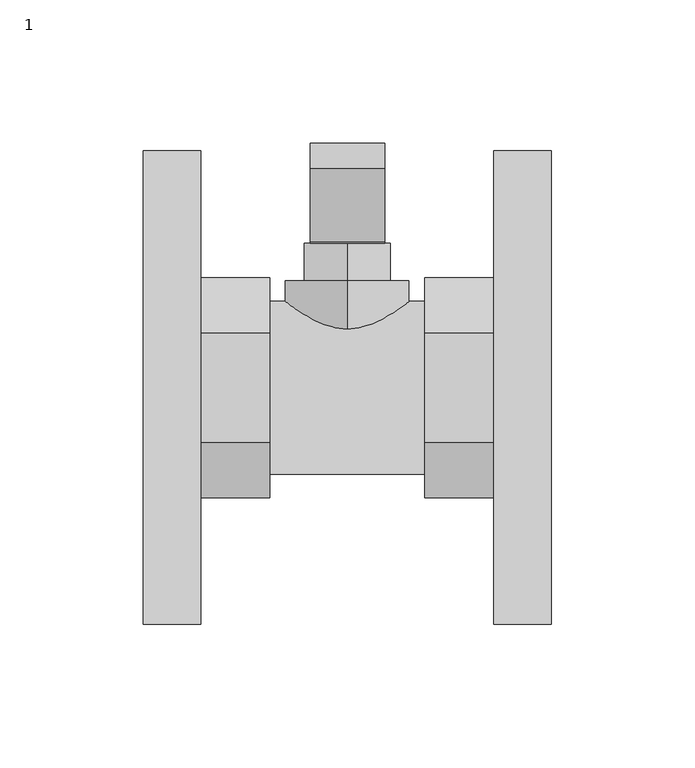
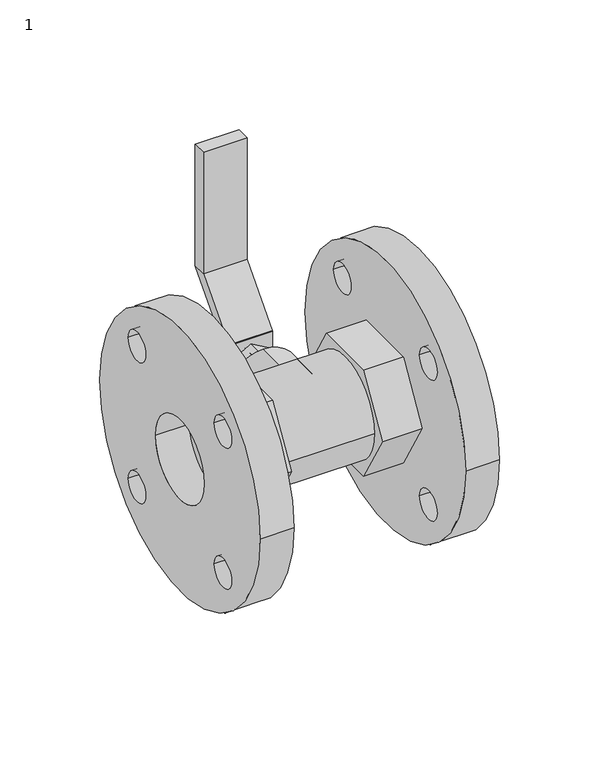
"""IFC4 building model written with IfcOpenShell, lengths in millimetres: valve geometry, LLAVE BRIDADA DN_50 : 1."""

from ifc_helpers import new_model, si_unit, point, frame, frame_2d, origin, origin_2d, place, context, project, spatial, polyline, circle_curve, trimmed, segment, composite_curve, outline, extrude, source, transform, mapped, element, save


def valve_1_e48f4d86(model_context):
    return source(origin(), model_context, "Body", "SweptSolid", [
        extrude(outline(composite_curve([segment(trimmed(circle_curve(origin_2d(), 82.5), [point((-82.5, 0.0))], [point((82.5, 0.0))], False, "CARTESIAN"), True, "CONTINUOUS"), segment(trimmed(circle_curve(origin_2d(), 82.5), [point((82.5, 0.0))], [point((-82.5, 0.0))], False, "CARTESIAN"), True, "CONTINUOUS")], self_intersect=False), holes=[composite_curve([segment(trimmed(circle_curve(frame_2d((-44.2, 44.2)), 9.0), [point((-53.2, 44.2))], [point((-35.2, 44.2))], True, "CARTESIAN"), True, "CONTINUOUS"), segment(trimmed(circle_curve(frame_2d((-44.2, 44.2)), 9.0), [point((-35.2, 44.2))], [point((-53.2, 44.2))], True, "CARTESIAN"), True, "CONTINUOUS")], self_intersect=False), composite_curve([segment(trimmed(circle_curve(origin_2d(), 25.0), [point((-25.0, 0.0))], [point((25.0, 0.0))], True, "CARTESIAN"), True, "CONTINUOUS"), segment(trimmed(circle_curve(origin_2d(), 25.0), [point((25.0, 0.0))], [point((-25.0, 0.0))], True, "CARTESIAN"), True, "CONTINUOUS")], self_intersect=False), composite_curve([segment(trimmed(circle_curve(frame_2d((44.2, 44.2)), 9.0), [point((35.2, 44.2))], [point((53.2, 44.2))], True, "CARTESIAN"), True, "CONTINUOUS"), segment(trimmed(circle_curve(frame_2d((44.2, 44.2)), 9.0), [point((53.2, 44.2))], [point((35.2, 44.2))], True, "CARTESIAN"), True, "CONTINUOUS")], self_intersect=False), composite_curve([segment(trimmed(circle_curve(frame_2d((-44.2, -44.2)), 9.0), [point((-53.2, -44.2))], [point((-35.2, -44.2))], True, "CARTESIAN"), True, "CONTINUOUS"), segment(trimmed(circle_curve(frame_2d((-44.2, -44.2)), 9.0), [point((-35.2, -44.2))], [point((-53.2, -44.2))], True, "CARTESIAN"), True, "CONTINUOUS")], self_intersect=False), composite_curve([segment(trimmed(circle_curve(frame_2d((44.2, -44.2)), 9.0), [point((35.2, -44.2))], [point((53.2, -44.2))], True, "CARTESIAN"), True, "CONTINUOUS"), segment(trimmed(circle_curve(frame_2d((44.2, -44.2)), 9.0), [point((53.2, -44.2))], [point((35.2, -44.2))], True, "CARTESIAN"), True, "CONTINUOUS")], self_intersect=False)]), frame((-71.0, 0.0, 0.0), z_axis=(1.0, 0.0, 0.0), x_axis=(0.0, 1.0, 0.0)), (0.0, 0.0, 1.0), 20.0),
        extrude(outline(composite_curve([segment(trimmed(circle_curve(origin_2d(), 82.5), [point((-82.5, 0.0))], [point((82.5, 0.0))], False, "CARTESIAN"), True, "CONTINUOUS"), segment(trimmed(circle_curve(origin_2d(), 82.5), [point((82.5, 0.0))], [point((-82.5, 0.0))], False, "CARTESIAN"), True, "CONTINUOUS")], self_intersect=False), holes=[composite_curve([segment(trimmed(circle_curve(frame_2d((-44.2, 44.2)), 9.0), [point((-53.2, 44.2))], [point((-35.2, 44.2))], True, "CARTESIAN"), True, "CONTINUOUS"), segment(trimmed(circle_curve(frame_2d((-44.2, 44.2)), 9.0), [point((-35.2, 44.2))], [point((-53.2, 44.2))], True, "CARTESIAN"), True, "CONTINUOUS")], self_intersect=False), composite_curve([segment(trimmed(circle_curve(origin_2d(), 25.0), [point((-25.0, 0.0))], [point((25.0, 0.0))], True, "CARTESIAN"), True, "CONTINUOUS"), segment(trimmed(circle_curve(origin_2d(), 25.0), [point((25.0, 0.0))], [point((-25.0, 0.0))], True, "CARTESIAN"), True, "CONTINUOUS")], self_intersect=False), composite_curve([segment(trimmed(circle_curve(frame_2d((44.2, 44.2)), 9.0), [point((35.2, 44.2))], [point((53.2, 44.2))], True, "CARTESIAN"), True, "CONTINUOUS"), segment(trimmed(circle_curve(frame_2d((44.2, 44.2)), 9.0), [point((53.2, 44.2))], [point((35.2, 44.2))], True, "CARTESIAN"), True, "CONTINUOUS")], self_intersect=False), composite_curve([segment(trimmed(circle_curve(frame_2d((-44.2, -44.2)), 9.0), [point((-53.2, -44.2))], [point((-35.2, -44.2))], True, "CARTESIAN"), True, "CONTINUOUS"), segment(trimmed(circle_curve(frame_2d((-44.2, -44.2)), 9.0), [point((-35.2, -44.2))], [point((-53.2, -44.2))], True, "CARTESIAN"), True, "CONTINUOUS")], self_intersect=False), composite_curve([segment(trimmed(circle_curve(frame_2d((44.2, -44.2)), 9.0), [point((35.2, -44.2))], [point((53.2, -44.2))], True, "CARTESIAN"), True, "CONTINUOUS"), segment(trimmed(circle_curve(frame_2d((44.2, -44.2)), 9.0), [point((53.2, -44.2))], [point((35.2, -44.2))], True, "CARTESIAN"), True, "CONTINUOUS")], self_intersect=False)]), frame((51.0, 0.0, 0.0), z_axis=(1.0, 0.0, 0.0), x_axis=(0.0, 1.0, 0.0)), (0.0, 0.0, 1.0), 20.0),
        extrude(outline(polyline([(-12.830081, 50.384772), (-12.830081, 59.024772), (13.089919, 59.024772), (13.089919, 50.384772), (-12.830081, 50.384772)])), frame((0.0, 0.0, -22.8), z_axis=(0.0, 0.0, 1.0), x_axis=(1.0, 0.0, 0.0)), (0.0, 0.0, 1.0), 43.2),
        extrude(outline(polyline([(-12.830081, 76.43), (-12.830081, 85.07), (13.089919, 85.07), (13.089919, 76.43), (-12.830081, 76.43)])), frame((0.0, 0.0, 49.6), z_axis=(0.0, 0.0, 1.0), x_axis=(1.0, 0.0, 0.0)), (0.0, 0.0, 1.0), 76.2),
        extrude(outline(polyline([(59.024772, 20.4), (50.384772, 20.4), (76.43, 49.6), (85.07, 49.6), (59.024772, 20.4)])), frame((-12.830081, 0.0, 0.0), z_axis=(1.0, 0.0, 0.0), x_axis=(0.0, 1.0, 0.0)), (0.0, 0.0, 1.0), 25.92),
        extrude(outline(polyline([(-8.64, 14.964919), (8.64, 14.964919), (17.28, 0.0), (8.64, -14.964919), (-8.64, -14.964919), (-17.28, 0.0), (-8.64, 14.964919)])), frame((0.0, 37.314772, 0.0), z_axis=(0.0, 1.0, 0.0), x_axis=(0.0, 0.0, 1.0)), (0.0, 0.0, 1.0), 12.96),
        extrude(outline(polyline([(-5.4, 9.3530744), (5.4, 9.3530744), (10.8, 0.0), (5.4, -9.3530744), (-5.4, -9.3530744), (-10.8, 0.0), (-5.4, 9.3530744)])), frame((0.0, 59.024772, 0.0), z_axis=(0.0, 1.0, 0.0), x_axis=(0.0, 0.0, 1.0)), (0.0, 0.0, 1.0), 6.48),
        extrude(outline(composite_curve([segment(trimmed(circle_curve(origin_2d(), 6.48), [point((-6.48, 0.0))], [point((6.48, 0.0))], False, "CARTESIAN"), True, "CONTINUOUS"), segment(trimmed(circle_curve(origin_2d(), 6.48), [point((6.48, 0.0))], [point((-6.48, 0.0))], False, "CARTESIAN"), True, "CONTINUOUS")], self_intersect=False)), frame((0.0, 65.504772, 0.0), z_axis=(0.0, 1.0, 0.0), x_axis=(0.0, 0.0, 1.0)), (0.0, 0.0, 1.0), 6.48),
        extrude(outline(composite_curve([segment(trimmed(circle_curve(origin_2d(), 6.48), [point((-6.48, 0.0))], [point((6.48, 0.0))], False, "CARTESIAN"), True, "CONTINUOUS"), segment(trimmed(circle_curve(origin_2d(), 6.48), [point((6.48, 0.0))], [point((-6.48, 0.0))], False, "CARTESIAN"), True, "CONTINUOUS")], self_intersect=False)), frame((0.0, 37.314772, 0.0), z_axis=(0.0, 1.0, 0.0), x_axis=(0.0, 0.0, 1.0)), (0.0, 0.0, 1.0), 21.71),
        extrude(outline(composite_curve([segment(trimmed(circle_curve(origin_2d(), 21.6), [point((-21.6, 0.0))], [point((21.6, 0.0))], False, "CARTESIAN"), True, "CONTINUOUS"), segment(trimmed(circle_curve(origin_2d(), 21.6), [point((21.6, 0.0))], [point((-21.6, 0.0))], False, "CARTESIAN"), True, "CONTINUOUS")], self_intersect=False)), frame((0.0, -0.001, 0.0), z_axis=(0.0, 1.0, 0.0), x_axis=(0.0, 0.0, 1.0)), (0.0, 0.0, 1.0), 37.316772),
        extrude(outline(composite_curve([segment(trimmed(circle_curve(origin_2d(), 30.15), [point((-30.15, 0.0))], [point((30.15, 0.0))], False, "CARTESIAN"), True, "CONTINUOUS"), segment(trimmed(circle_curve(origin_2d(), 30.15), [point((30.15, 0.0))], [point((-30.15, 0.0))], False, "CARTESIAN"), True, "CONTINUOUS")], self_intersect=False)), frame((-27.001, 0.0, 0.0), z_axis=(1.0, 0.0, 0.0), x_axis=(0.0, 1.0, 0.0)), (0.0, 0.0, 1.0), 54.002),
        extrude(outline(polyline([(-19.1478217, 33.165), (19.1478217, 33.165), (38.2956434, 0.0), (19.1478217, -33.165), (-19.1478217, -33.165), (-38.2956434, 0.0), (-19.1478217, 33.165)])), frame((27.0, 0.0, 0.0), z_axis=(1.0, 0.0, 0.0), x_axis=(0.0, 1.0, 0.0)), (0.0, 0.0, 1.0), 24.0),
        extrude(outline(polyline([(19.1478217, 33.165), (38.2956434, 0.0), (19.1478217, -33.165), (-19.1478217, -33.165), (-38.2956434, 0.0), (-19.1478217, 33.165), (19.1478217, 33.165)])), frame((-51.0, 0.0, 0.0), z_axis=(1.0, 0.0, 0.0), x_axis=(0.0, 1.0, 0.0)), (0.0, 0.0, 1.0), 24.0),
    ])


if __name__ == "__main__":
    model = new_model("IFC4")
    model_context = context("Model", 3, world=origin())
    ifc_project = project(units=[si_unit("LENGTHUNIT", "METRE", prefix="MILLI")], contexts=[model_context])
    site = spatial("IfcSite", under=ifc_project)
    building = spatial("IfcBuilding", under=site)
    placement = place(None, origin())
    valve_1_shape = valve_1_e48f4d86(model_context)
    element("IfcValve", 1, ObjectType="LLAVE BRIDADA DN_50 : 1", at=placement, inside=building, context=model_context, shape_type="MappedRepresentation", body=[
        mapped(valve_1_shape, transform((0.0, 0.0, 0.0), x_axis=(1.0, 0.0, 0.0), y_axis=(0.0, 1.0, 0.0), z_axis=(0.0, 0.0, 1.0))),
    ])
    save(model, "model.ifc")
